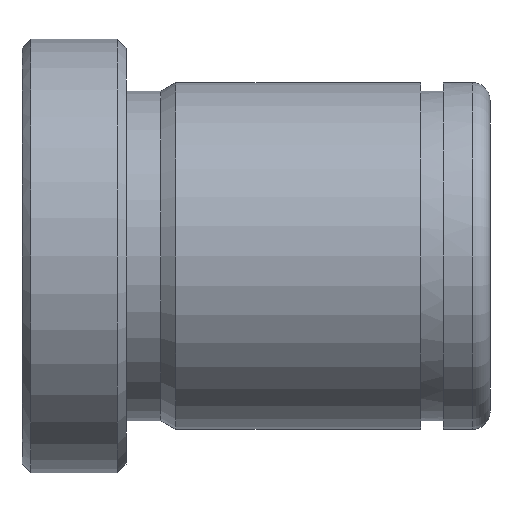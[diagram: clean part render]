
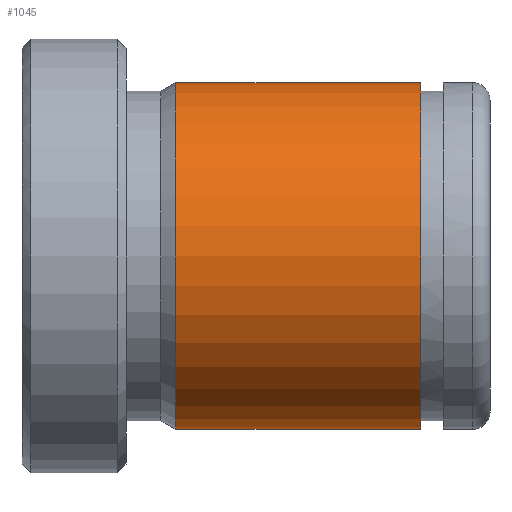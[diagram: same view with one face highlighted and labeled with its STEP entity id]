
A CAD part, front view. The second image highlights one B-rep face of the part: STEP entity #1045.
In plain terms, the highlighted cylindrical face has radius 10 mm (diameter 20 mm), a partial arc.
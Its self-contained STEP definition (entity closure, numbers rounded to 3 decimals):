
#851=CARTESIAN_POINT('Vertex',(8.866,0.,-10.)) ;
#858=CARTESIAN_POINT('Vertex',(8.866,0.,10.)) ;
#887=CARTESIAN_POINT('Axis2P3D Location',(8.866,0.,0.)) ;
#891=CARTESIAN_POINT('Vertex',(8.866,-10.,0.)) ;
#894=CARTESIAN_POINT('Axis2P3D Location',(8.866,0.,0.)) ;
#985=CARTESIAN_POINT('Line Origine',(54.,0.,10.)) ;
#989=CARTESIAN_POINT('Vertex',(23.,0.,10.)) ;
#1003=CARTESIAN_POINT('Vertex',(23.,0.,-10.)) ;
#1006=CARTESIAN_POINT('Line Origine',(54.,0.,-10.)) ;
#1020=CARTESIAN_POINT('Axis2P3D Location',(54.,0.,0.)) ;
#1025=CARTESIAN_POINT('Axis2P3D Location',(23.,0.,0.)) ;
#1029=CARTESIAN_POINT('Vertex',(23.,-10.,0.)) ;
#1032=CARTESIAN_POINT('Axis2P3D Location',(23.,0.,0.)) ;
#888=DIRECTION('Axis2P3D Direction',(1.,0.,-0.)) ;
#895=DIRECTION('Axis2P3D Direction',(1.,0.,-0.)) ;
#986=DIRECTION('Vector Direction',(-1.,0.,0.)) ;
#1007=DIRECTION('Vector Direction',(-1.,0.,0.)) ;
#1021=DIRECTION('Axis2P3D Direction',(-1.,-0.,-0.)) ;
#1022=DIRECTION('Axis2P3D XDirection',(0.,0.,-1.)) ;
#1026=DIRECTION('Axis2P3D Direction',(-1.,-0.,-0.)) ;
#1033=DIRECTION('Axis2P3D Direction',(-1.,-0.,-0.)) ;
#889=AXIS2_PLACEMENT_3D('Circle Axis2P3D',#887,#888,$) ;
#896=AXIS2_PLACEMENT_3D('Circle Axis2P3D',#894,#895,$) ;
#1023=AXIS2_PLACEMENT_3D('Cylinder Axis2P3D',#1020,#1021,#1022) ;
#1027=AXIS2_PLACEMENT_3D('Circle Axis2P3D',#1025,#1026,$) ;
#1034=AXIS2_PLACEMENT_3D('Circle Axis2P3D',#1032,#1033,$) ;
#1038=ORIENTED_EDGE('',*,*,#1010,.T.) ;
#1039=ORIENTED_EDGE('',*,*,#1031,.F.) ;
#1040=ORIENTED_EDGE('',*,*,#1036,.F.) ;
#1041=ORIENTED_EDGE('',*,*,#991,.T.) ;
#1042=ORIENTED_EDGE('',*,*,#898,.T.) ;
#1043=ORIENTED_EDGE('',*,*,#893,.T.) ;
#987=VECTOR('Line Direction',#986,1.) ;
#1008=VECTOR('Line Direction',#1007,1.) ;
#1045=ADVANCED_FACE('553-14x27',(#1044),#1024,.T.) ;
#890=CIRCLE('generated circle',#889,10.) ;
#897=CIRCLE('generated circle',#896,10.) ;
#1028=CIRCLE('generated circle',#1027,10.) ;
#1035=CIRCLE('generated circle',#1034,10.) ;
#1024=CYLINDRICAL_SURFACE('generated cylinder',#1023,10.) ;
#893=EDGE_CURVE('',#892,#852,#890,.T.) ;
#898=EDGE_CURVE('',#859,#892,#897,.T.) ;
#991=EDGE_CURVE('',#990,#859,#988,.T.) ;
#1010=EDGE_CURVE('',#852,#1004,#1009,.F.) ;
#1031=EDGE_CURVE('',#1030,#1004,#1028,.F.) ;
#1036=EDGE_CURVE('',#990,#1030,#1035,.F.) ;
#1037=EDGE_LOOP('',(#1038,#1039,#1040,#1041,#1042,#1043)) ;
#1044=FACE_OUTER_BOUND('',#1037,.T.) ;
#988=LINE('Line',#985,#987) ;
#1009=LINE('Line',#1006,#1008) ;
#852=VERTEX_POINT('',#851) ;
#859=VERTEX_POINT('',#858) ;
#892=VERTEX_POINT('',#891) ;
#990=VERTEX_POINT('',#989) ;
#1004=VERTEX_POINT('',#1003) ;
#1030=VERTEX_POINT('',#1029) ;
